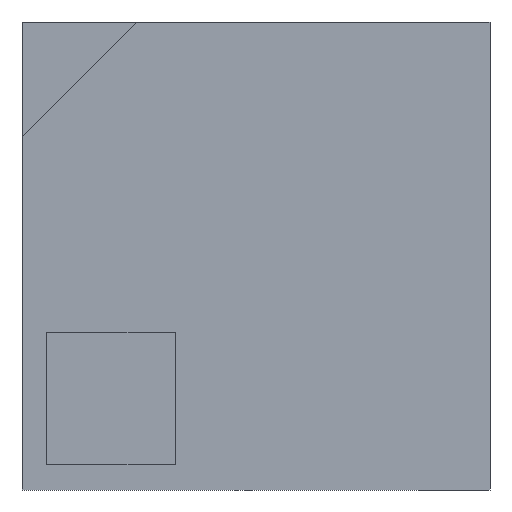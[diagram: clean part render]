
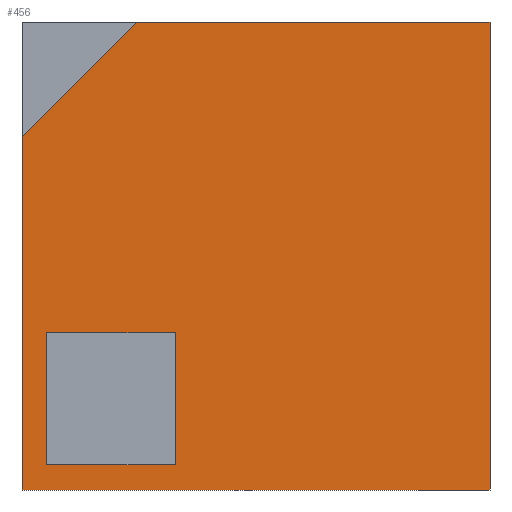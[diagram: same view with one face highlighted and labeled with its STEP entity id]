
A CAD part, front view. The second image highlights one B-rep face of the part: STEP entity #456.
In plain terms, the highlighted planar face has unit normal (0, -1, 0).
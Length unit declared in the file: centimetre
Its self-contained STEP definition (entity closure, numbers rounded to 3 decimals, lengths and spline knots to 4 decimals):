
#2 = LINE ( 'NONE', #326, #466 ) ;
#33 = DIRECTION ( 'NONE',  ( 1., 0., 0. ) ) ;
#46 = CARTESIAN_POINT ( 'NONE',  ( 52.8304, 0., 335.7716 ) ) ;
#68 = ORIENTED_EDGE ( 'NONE', *, *, #267, .F. ) ;
#99 = ORIENTED_EDGE ( 'NONE', *, *, #135, .F. ) ;
#114 = DIRECTION ( 'NONE',  ( 0., 1., 0. ) ) ;
#115 = VERTEX_POINT ( 'NONE', #590 ) ;
#123 = CARTESIAN_POINT ( 'NONE',  ( 52.8304, 0., 53.4714 ) ) ;
#135 = EDGE_CURVE ( 'NONE', #817, #354, #193, .T. ) ;
#170 = VECTOR ( 'NONE', #1019, 100. ) ;
#177 = CARTESIAN_POINT ( 'NONE',  ( 245.2618, 0., 1000. ) ) ;
#178 = ORIENTED_EDGE ( 'NONE', *, *, #439, .F. ) ;
#193 = LINE ( 'NONE', #123, #351 ) ;
#213 = EDGE_CURVE ( 'NONE', #814, #817, #692, .T. ) ;
#267 = EDGE_CURVE ( 'NONE', #338, #115, #1018, .T. ) ;
#326 = CARTESIAN_POINT ( 'NONE',  ( 0., 0., 754.7382 ) ) ;
#338 = VERTEX_POINT ( 'NONE', #177 ) ;
#346 = PLANE ( 'NONE',  #836 ) ;
#351 = VECTOR ( 'NONE', #33, 100. ) ;
#354 = VERTEX_POINT ( 'NONE', #893 ) ;
#357 = EDGE_CURVE ( 'NONE', #753, #814, #505, .T. ) ;
#376 = CARTESIAN_POINT ( 'NONE',  ( 0., 0., 0. ) ) ;
#412 = ORIENTED_EDGE ( 'NONE', *, *, #630, .F. ) ;
#414 = FACE_BOUND ( 'NONE', #749, .T. ) ;
#439 = EDGE_CURVE ( 'NONE', #683, #338, #2, .T. ) ;
#455 = LINE ( 'NONE', #539, #941 ) ;
#456 = ADVANCED_FACE ( 'NONE', ( #414, #728 ), #346, .F. ) ;
#460 = VECTOR ( 'NONE', #663, 100. ) ;
#466 = VECTOR ( 'NONE', #708, 100. ) ;
#469 = CARTESIAN_POINT ( 'NONE',  ( 0., 0., 1000. ) ) ;
#484 = ORIENTED_EDGE ( 'NONE', *, *, #818, .F. ) ;
#493 = ORIENTED_EDGE ( 'NONE', *, *, #213, .F. ) ;
#505 = LINE ( 'NONE', #46, #460 ) ;
#511 = EDGE_CURVE ( 'NONE', #683, #602, #675, .T. ) ;
#516 = VECTOR ( 'NONE', #520, 100. ) ;
#520 = DIRECTION ( 'NONE',  ( 0., 0., 1. ) ) ;
#526 = EDGE_CURVE ( 'NONE', #602, #716, #455, .T. ) ;
#539 = CARTESIAN_POINT ( 'NONE',  ( 0., 0., 0. ) ) ;
#557 = VECTOR ( 'NONE', #870, 100. ) ;
#586 = ORIENTED_EDGE ( 'NONE', *, *, #526, .T. ) ;
#588 = ORIENTED_EDGE ( 'NONE', *, *, #511, .T. ) ;
#590 = CARTESIAN_POINT ( 'NONE',  ( 1000., 0., 1000. ) ) ;
#602 = VERTEX_POINT ( 'NONE', #376 ) ;
#603 = CARTESIAN_POINT ( 'NONE',  ( 0., 0., 1000. ) ) ;
#610 = DIRECTION ( 'NONE',  ( 0., 0., -1. ) ) ;
#630 = EDGE_CURVE ( 'NONE', #115, #716, #942, .T. ) ;
#639 = VECTOR ( 'NONE', #610, 100. ) ;
#663 = DIRECTION ( 'NONE',  ( -1., 0., 0. ) ) ;
#671 = LINE ( 'NONE', #756, #516 ) ;
#675 = LINE ( 'NONE', #603, #783 ) ;
#683 = VERTEX_POINT ( 'NONE', #697 ) ;
#692 = LINE ( 'NONE', #782, #639 ) ;
#697 = CARTESIAN_POINT ( 'NONE',  ( 0., 0., 754.7382 ) ) ;
#708 = DIRECTION ( 'NONE',  ( 0.707, 0., 0.707 ) ) ;
#714 = CARTESIAN_POINT ( 'NONE',  ( 327.2731, 0., 335.7716 ) ) ;
#716 = VERTEX_POINT ( 'NONE', #871 ) ;
#728 = FACE_OUTER_BOUND ( 'NONE', #883, .T. ) ;
#734 = DIRECTION ( 'NONE',  ( 0., 0., 1. ) ) ;
#749 = EDGE_LOOP ( 'NONE', ( #99, #493, #828, #484 ) ) ;
#753 = VERTEX_POINT ( 'NONE', #714 ) ;
#756 = CARTESIAN_POINT ( 'NONE',  ( 327.2731, 0., 53.4714 ) ) ;
#777 = CARTESIAN_POINT ( 'NONE',  ( 1000., 0., 1000. ) ) ;
#782 = CARTESIAN_POINT ( 'NONE',  ( 52.8304, 0., 53.4714 ) ) ;
#783 = VECTOR ( 'NONE', #935, 100. ) ;
#814 = VERTEX_POINT ( 'NONE', #890 ) ;
#817 = VERTEX_POINT ( 'NONE', #919 ) ;
#818 = EDGE_CURVE ( 'NONE', #354, #753, #671, .T. ) ;
#828 = ORIENTED_EDGE ( 'NONE', *, *, #357, .F. ) ;
#836 = AXIS2_PLACEMENT_3D ( 'NONE', #970, #114, #734 ) ;
#870 = DIRECTION ( 'NONE',  ( 1., 0., 0. ) ) ;
#871 = CARTESIAN_POINT ( 'NONE',  ( 1000., 0., 0. ) ) ;
#883 = EDGE_LOOP ( 'NONE', ( #68, #178, #588, #586, #412 ) ) ;
#890 = CARTESIAN_POINT ( 'NONE',  ( 52.8304, 0., 335.7716 ) ) ;
#893 = CARTESIAN_POINT ( 'NONE',  ( 327.2731, 0., 53.4714 ) ) ;
#919 = CARTESIAN_POINT ( 'NONE',  ( 52.8304, 0., 53.4714 ) ) ;
#935 = DIRECTION ( 'NONE',  ( 0., 0., -1. ) ) ;
#941 = VECTOR ( 'NONE', #999, 100. ) ;
#942 = LINE ( 'NONE', #777, #170 ) ;
#970 = CARTESIAN_POINT ( 'NONE',  ( 0., 0., 1000. ) ) ;
#999 = DIRECTION ( 'NONE',  ( 1., 0., 0. ) ) ;
#1018 = LINE ( 'NONE', #469, #557 ) ;
#1019 = DIRECTION ( 'NONE',  ( 0., 0., -1. ) ) ;
